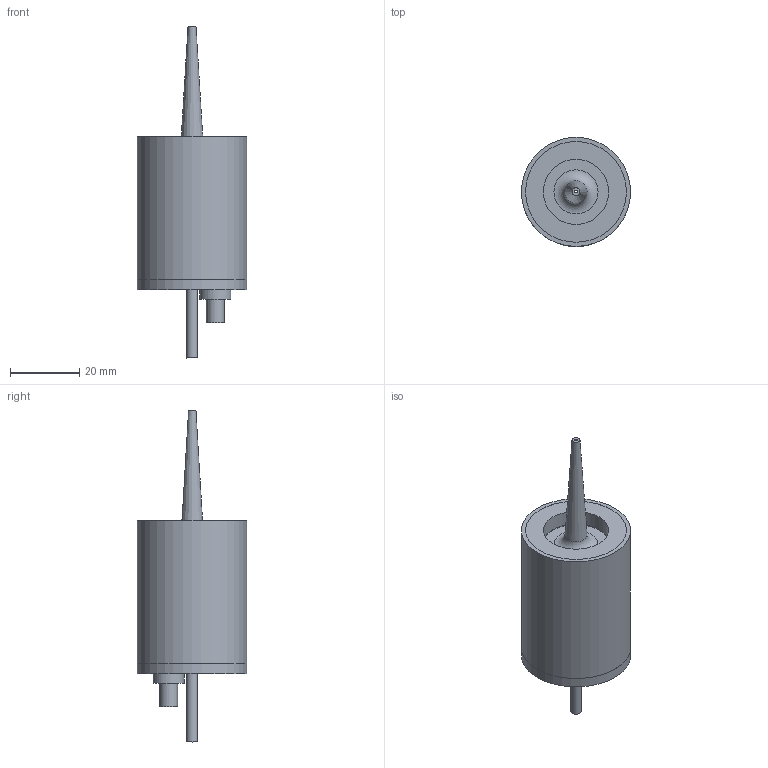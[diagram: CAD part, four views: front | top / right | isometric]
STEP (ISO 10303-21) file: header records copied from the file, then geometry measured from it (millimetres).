
FILE_DESCRIPTION((''),'2;1');
FILE_NAME('Y:\Desktop\AutoDesk\Atomizer Nozzles\LF48KT\LF48KT Atomizer Nozzle.stp','2019-12-02T15:43:41',('Owner'),(''),'Autodesk Inventor 2013','Autodesk Inventor 2013','');
FILE_SCHEMA(('AUTOMOTIVE_DESIGN { 1 0 10303 214 1 1 1 1 }'));
Length unit declared in the file: inch
Products named in the file (16): LF48KT Atomizer Nozzle; SON01369 LF48kHz Front Driver; AS568A-003; SON01319 40kHz Bolt; Electrode; Crystal; SON01320 40kHz Rear Driver; SON00924A  Probe Isolator; AS568A-022; SON00922C Probe Case; SON00923C CASE RING; SON00927E Atomizer Rear Cover; 1-64 screw; AS568A-009; electrical connector; SON00928C Atomizer Tube
Assembly tree (21 placements, depth 2):
  LF48KT Atomizer Nozzle
    SON01369 LF48kHz Front Driver
    AS568A-003
    SON01319 40kHz Bolt
    Electrode  x2
    Crystal  x2
    SON01320 40kHz Rear Driver
    SON00924A  Probe Isolator
    AS568A-022  x2
    SON00922C Probe Case
    SON00923C CASE RING
    SON00927E Atomizer Rear Cover
    1-64 screw  x4
    AS568A-009
    electrical connector
    SON00928C Atomizer Tube
Bounding box: 31.5 x 31.5 x 95.78 mm (x, y, z)
Volume: 23544.1 mm3; surface area: 21898.5 mm2
Topology: 21 solids, 21 shells, 205 faces, 397 edges, 258 vertices
Faces by surface type: plane 106, cylinder 75, torus 13, cone 11
Full cylindrical faces by diameter (mm): 0.762 x1, 0.889 x2, 1.016 x2, 1.854 x8, 1.93 x4, 2.057 x1, 2.083 x1, 2.362 x1, 2.946 x2, 2.997 x4, 3.048 x4, 3.175 x2, 4.572 x1, 4.623 x1, 4.763 x1, 5.182 x1, 5.588 x1, 6.35 x5, 7.62 x2, 7.747 x2, 8.731 x1, 8.992 x1, 18.796 x1, 19.05 x5, 20.574 x1, 21.463 x1, 21.59 x1, 25.4 x3, 27.94 x1, 29.083 x2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
Entity records: 4002 total; most frequent: DIRECTION 714, CARTESIAN_POINT 561, ORIENTED_EDGE 408, AXIS2_PLACEMENT_3D 326, EDGE_LOOP 271, EDGE_CURVE 204, VERTEX_POINT 173, FACE_OUTER_BOUND 147
